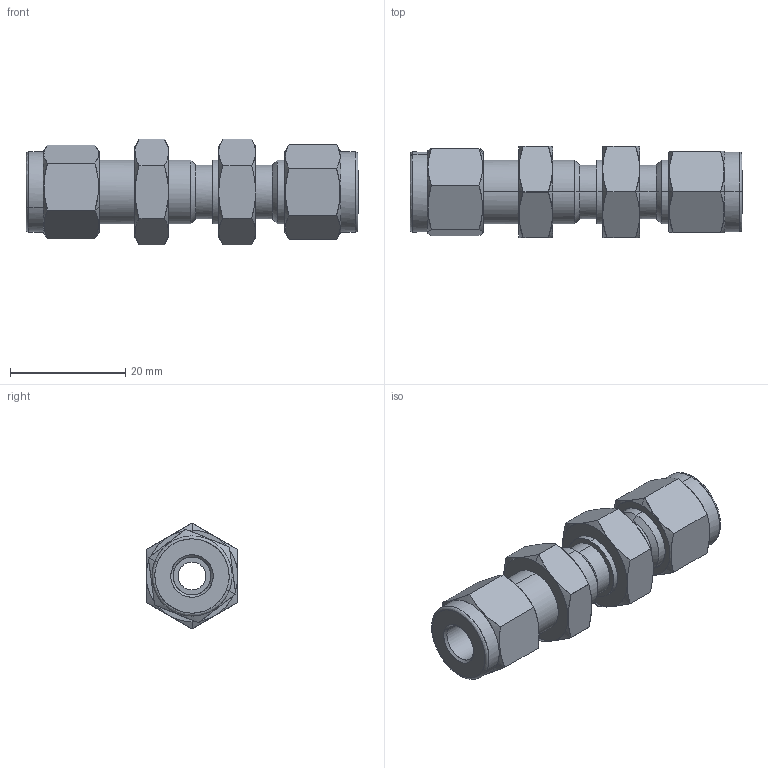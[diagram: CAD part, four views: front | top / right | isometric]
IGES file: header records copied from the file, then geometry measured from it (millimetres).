
Start section: Comment
Global section: file name: SBHU-4.igs; native system:  By UGS Corp.; preprocessor: XPlus GENERIC/IGES 3.0; author: Author; organization: Title; date: 20100528.112512; units: millimetre
Bounding box: 57.65 x 15.9 x 18.33 mm (x, y, z)
Surface area: 5906.2 mm2 (no closed solid volume)
Topology: 0 solids, 0 shells, 128 faces, 562 edges, 562 vertices
Faces by surface type: bspline 128
